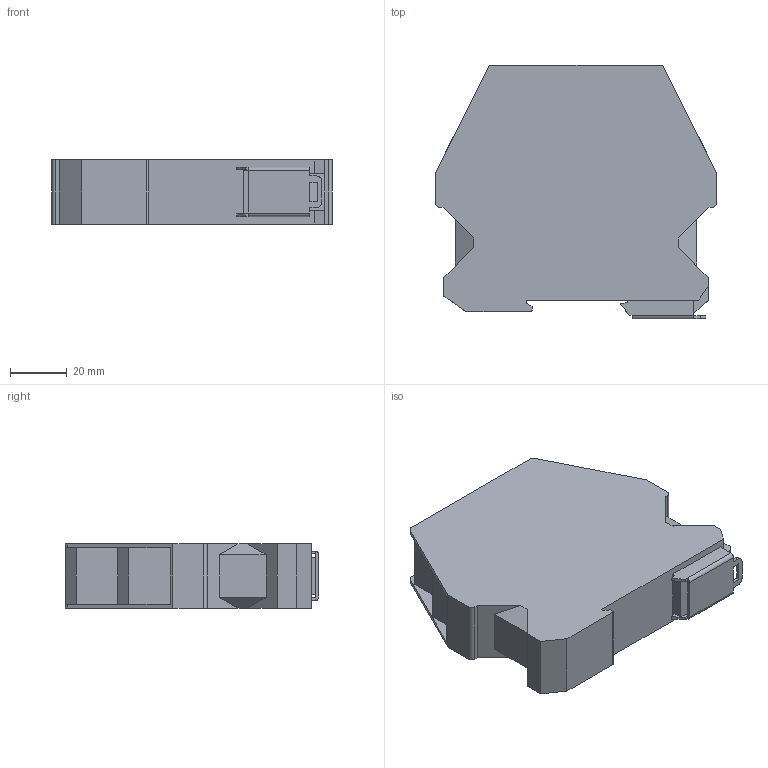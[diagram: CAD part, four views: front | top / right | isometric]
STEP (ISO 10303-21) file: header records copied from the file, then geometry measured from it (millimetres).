
FILE_DESCRIPTION (( 'STEP AP214' ), '1' );
FILE_NAME ('ZF_STEP_CS_fD_mV.step', '2021-02-15T12:59:44', ( '' ), ( '' ), 'SwSTEP 2.0', 'SolidWorks 2014', '' );
FILE_SCHEMA (( 'AUTOMOTIVE_DESIGN' ));
Length unit declared in the file: millimetre
Products named in the file (3): DIN; CS_22,5x88mm_V; ZF_STEP_CS_fD_mV
Assembly tree (2 placements, depth 2):
  ZF_STEP_CS_fD_mV
    CS_22,5x88mm_V
    DIN
Bounding box: 99 x 89.4 x 22.6 mm (x, y, z)
Volume: 159640.6 mm3; surface area: 24897.3 mm2
Topology: 2 solids, 2 shells, 95 faces, 271 edges, 180 vertices
Faces by surface type: plane 84, cylinder 11
Entity records: 3198 total; most frequent: CARTESIAN_POINT 551, ORIENTED_EDGE 542, DIRECTION 493, EDGE_CURVE 271, VECTOR 249, LINE 249, VERTEX_POINT 180, AXIS2_PLACEMENT_3D 122
